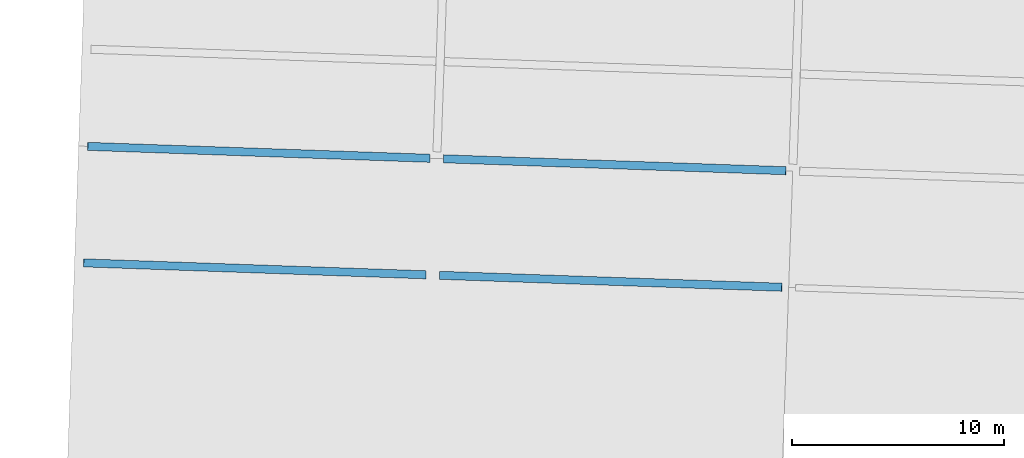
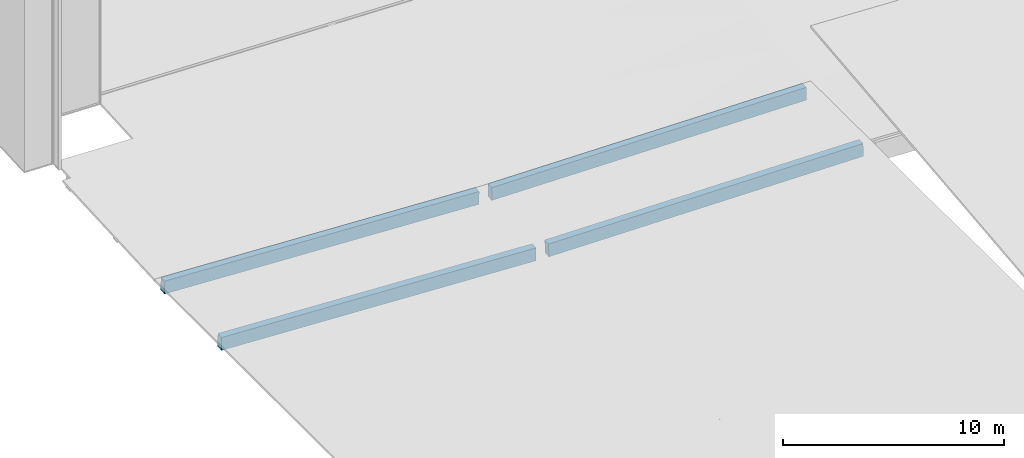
# One storey, part 2 of 17: 4 beams.
"""IFC2X3 building model written with IfcOpenShell, lengths in feet."""

from ifc_helpers import new_model, entity, si_unit, converted_unit, derived_unit, direction, frame, frame_2d, origin, origin_2d_with_axis, place, context, subcontext, project, spatial, rectangle, extrude, material, element, save


model = new_model("IFC2X3")

# Units and contexts
model_context = context("Model", 3, precision=0.0001, world=origin(), true_north=direction((0.999390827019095, 0.0348994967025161)))
body_context = subcontext(model_context, "Body", "Model", "MODEL_VIEW")
ifc_project = project(units=[converted_unit("LENGTHUNIT", "FOOT", entity("IfcRatioMeasure", 0.3048), si_unit("LENGTHUNIT", "METRE"), dimensions=[1, 0, 0, 0, 0, 0, 0]), converted_unit("AREAUNIT", "SQUARE FOOT", entity("IfcRatioMeasure", 0.09290304), si_unit("AREAUNIT", "SQUARE_METRE"), dimensions=[2, 0, 0, 0, 0, 0, 0]), converted_unit("VOLUMEUNIT", "CUBIC FOOT", entity("IfcRatioMeasure", 0.028316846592), si_unit("VOLUMEUNIT", "CUBIC_METRE"), dimensions=[3, 0, 0, 0, 0, 0, 0]), converted_unit("PLANEANGLEUNIT", "DEGREE", entity("IfcRatioMeasure", 0.0174532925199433), si_unit("PLANEANGLEUNIT", "RADIAN"), dimensions=[0, 0, 0, 0, 0, 0, 0]), si_unit("MASSUNIT", "GRAM", prefix="KILO"), si_unit("TIMEUNIT", "SECOND"), si_unit("FREQUENCYUNIT", "HERTZ"), si_unit("THERMODYNAMICTEMPERATUREUNIT", "DEGREE_CELSIUS"), derived_unit("THERMALTRANSMITTANCEUNIT", [(si_unit("MASSUNIT", "GRAM", prefix="KILO"), 1), (si_unit("THERMODYNAMICTEMPERATUREUNIT", "KELVIN"), -1), (si_unit("TIMEUNIT", "SECOND"), -3)]), derived_unit("VOLUMETRICFLOWRATEUNIT", [(si_unit("LENGTHUNIT", "METRE"), 3), (si_unit("TIMEUNIT", "SECOND"), -1)]), si_unit("ELECTRICCURRENTUNIT", "AMPERE"), si_unit("ELECTRICVOLTAGEUNIT", "VOLT"), si_unit("POWERUNIT", "WATT"), si_unit("FORCEUNIT", "NEWTON"), si_unit("ILLUMINANCEUNIT", "LUX"), si_unit("LUMINOUSFLUXUNIT", "LUMEN"), si_unit("LUMINOUSINTENSITYUNIT", "CANDELA"), derived_unit("USERDEFINED", [(si_unit("MASSUNIT", "GRAM", prefix="KILO"), -1), (si_unit("LENGTHUNIT", "METRE"), -2), (si_unit("TIMEUNIT", "SECOND"), 3), (si_unit("LUMINOUSFLUXUNIT", "LUMEN"), 1)]), derived_unit("LINEARVELOCITYUNIT", [(si_unit("LENGTHUNIT", "METRE"), 1), (si_unit("TIMEUNIT", "SECOND"), -1)]), si_unit("PRESSUREUNIT", "PASCAL"), derived_unit("USERDEFINED", [(si_unit("LENGTHUNIT", "METRE"), -2), (si_unit("MASSUNIT", "GRAM", prefix="KILO"), 1), (si_unit("TIMEUNIT", "SECOND"), -2)])], contexts=[model_context])

# Site, building, storey
site_placement = place(None, frame((892.518771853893, 322.38689265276, 0.00393700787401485), z_axis=(0.0, 0.0, 1.0), x_axis=(0.0348994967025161, 0.999390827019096, 0.0)))
site = spatial("IfcSite", under=ifc_project, at=site_placement, Name="Default", CompositionType="ELEMENT")
building_placement = place(site_placement, origin())
building = spatial("IfcBuilding", under=site, at=building_placement, CompositionType="ELEMENT")
storey_placement = place(building_placement, frame((0.0, 0.0, 557.0)))
storey = spatial("IfcBuildingStorey", under=building, at=storey_placement, Name="Existing Garage - 1st Level", CompositionType="ELEMENT", Elevation=557.0)

# Beams
ifc_material = material(Name="Concrete - Precast Concrete - Normal Weight - 5 ksi")
beam_1_placement = place(storey_placement, frame((57.9272542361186, 346.763953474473, -0.746744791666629), z_axis=(0.0, 0.0152695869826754, 0.999883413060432), x_axis=(0.0, 0.999883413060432, -0.0152695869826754)))
element("IfcBeam", 1, at=beam_1_placement, inside=storey, material=ifc_material, Name="Precast-Rectangular Beam:15 x 28 (33 w/ 5\" Conc Slab)", ObjectType="Precast-Rectangular Beam:15 x 28 (33 w/ 5\" Conc Slab)", context=body_context, shape_type="SweptSolid", body=[
    extrude(rectangle(XDim=2.33333333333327, YDim=1.25000000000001, at=origin_2d_with_axis()), frame((1.07741645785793, 0.0, -1.16666666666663), z_axis=(1.0, 0.0, 0.0), x_axis=(0.0, 0.0, -1.0)), (0.0, 0.0, 1.0), 52.8872133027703),
])
beam_2_placement = place(storey_placement, frame((57.9272542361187, 401.76395347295, -1.58667000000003), z_axis=(0.0, -0.0212679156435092, 0.999773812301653), x_axis=(0.0, 0.999773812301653, 0.0212679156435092)))
element("IfcBeam", 2, at=beam_2_placement, inside=storey, material=ifc_material, Name="Precast-Rectangular Beam:15 x 28 (33 w/ 5\" Conc Slab)", ObjectType="Precast-Rectangular Beam:15 x 28 (33 w/ 5\" Conc Slab)", context=body_context, shape_type="SweptSolid", body=[
    extrude(rectangle(XDim=2.33333333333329, YDim=1.25000000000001, at=origin_2d_with_axis()), frame((1.04189290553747, 0.0, -1.16666666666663), z_axis=(1.0, 0.0, 0.0), x_axis=(0.0, 0.0, -1.0)), (0.0, 0.0, 1.0), 52.8790209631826),
])
beam_3_placement = place(storey_placement, frame((39.9272542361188, 456.76395347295, 0.493330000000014), z_axis=(0.0, -0.0212679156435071, 0.999773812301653), x_axis=(0.0, -0.999773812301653, -0.0212679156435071)))
element("IfcBeam", 3, at=beam_3_placement, inside=storey, material=ifc_material, Name="Precast-Rectangular Beam:15 x 28 (33 w/ 5\" Conc Slab)", ObjectType="Precast-Rectangular Beam:15 x 28 (33 w/ 5\" Conc Slab)", context=body_context, shape_type="SweptSolid", body=[
    extrude(rectangle(XDim=2.33333333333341, YDim=1.25000000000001, at=frame_2d((0.0, -3.5527136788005e-15), x_axis=(1.0, 0.0))), frame((1.09152926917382, 0.0, -1.16666666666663), z_axis=(1.0, 0.0, 0.0), x_axis=(0.0, 0.0, -1.0)), (0.0, 0.0, 1.0), 52.8790209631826),
])
beam_4_placement = place(storey_placement, frame((39.9272542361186, 346.76395347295, 0.203330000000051), z_axis=(0.0, 0.0159979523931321, 0.999872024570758), x_axis=(0.0, 0.999872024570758, -0.0159979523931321)))
element("IfcBeam", 4, at=beam_4_placement, inside=storey, material=ifc_material, Name="Precast-Rectangular Beam:15 x 28 (33 w/ 5\" Conc Slab)", ObjectType="Precast-Rectangular Beam:15 x 28 (33 w/ 5\" Conc Slab)", context=body_context, shape_type="SweptSolid", body=[
    extrude(rectangle(XDim=2.33333333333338, YDim=1.25000000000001, at=frame_2d((-4.44089209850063e-16, 3.5527136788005e-15), x_axis=(1.0, 0.0))), frame((1.07912799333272, 0.0, -1.16666666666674), z_axis=(1.0, 0.0, 0.0), x_axis=(0.0, 0.0, -1.0)), (0.0, 0.0, 1.0), 52.8861168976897),
])

save(model, "model.ifc")
